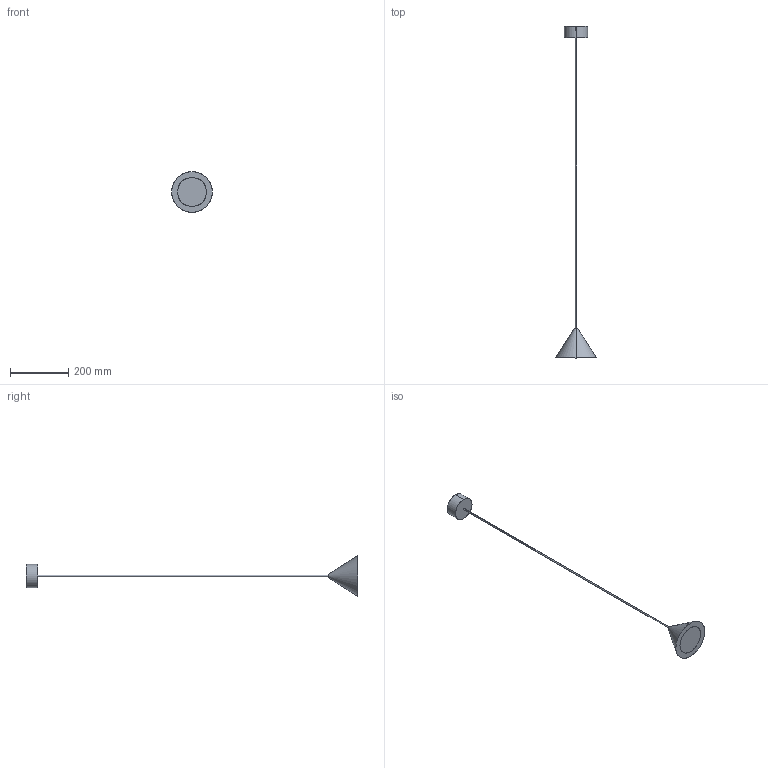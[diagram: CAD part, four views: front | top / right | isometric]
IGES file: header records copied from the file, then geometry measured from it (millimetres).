
Start section: SolidWorks IGES file using analytic representation for surfaces
Global section: file name: C:\Users\Agus\Desktop\Novedades Enero_2022 - 3D\cono marmol\C1300.IGS; native system: SolidWorks 2018; preprocessor: SolidWorks 2018; author: Agus; date: 220221.095416; units: millimetre
Bounding box: 140 x 1141.5 x 140 mm (x, y, z)
Surface area: 97737.2 mm2 (no closed solid volume)
Topology: 0 solids, 0 shells, 27 faces, 728 edges, 728 vertices
Faces by surface type: revolution 14, bspline 13
